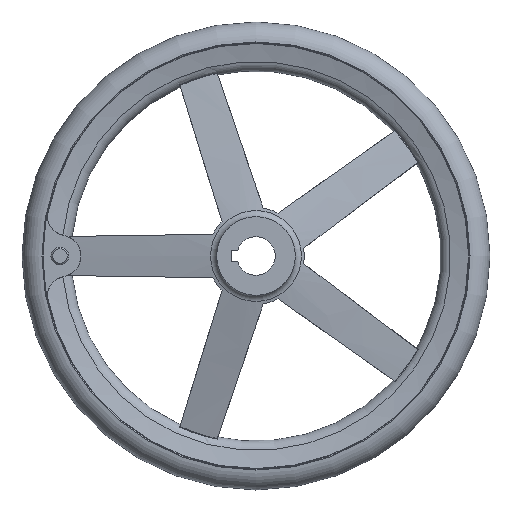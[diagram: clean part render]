
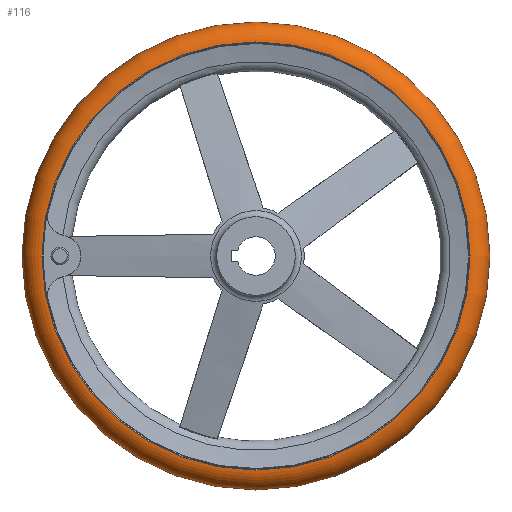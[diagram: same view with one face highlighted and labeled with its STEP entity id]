
A CAD part, left-side view. The second image highlights one B-rep face of the part: STEP entity #116.
In plain terms, the highlighted toroidal (fillet/blend) face has major radius 143.487 mm and minor radius 14.013 mm.
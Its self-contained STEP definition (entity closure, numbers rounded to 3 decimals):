
#116 = ADVANCED_FACE( '', ( #244, #245, #246 ), #247, .T. );
#244 = FACE_BOUND( '', #438, .T. );
#245 = FACE_OUTER_BOUND( '', #439, .T. );
#246 = FACE_OUTER_BOUND( '', #440, .T. );
#247 = TOROIDAL_SURFACE( '', #441, 143.487, 14.013 );
#438 = VERTEX_LOOP( '', #853 );
#439 = EDGE_LOOP( '', ( #854 ) );
#440 = EDGE_LOOP( '', ( #855 ) );
#441 = AXIS2_PLACEMENT_3D( '', #856, #857, #858 );
#853 = VERTEX_POINT( '', #1184 );
#854 = ORIENTED_EDGE( '', *, *, #1185, .T. );
#855 = ORIENTED_EDGE( '', *, *, #1186, .F. );
#856 = CARTESIAN_POINT( '', ( 42., 0., 0. ) );
#857 = DIRECTION( '', ( 1., 0., 0. ) );
#858 = DIRECTION( '', ( 0., 1., 0. ) );
#1184 = CARTESIAN_POINT( '', ( 42., 157.5, 0. ) );
#1185 = EDGE_CURVE( '', #1466, #1466, #1467, .T. );
#1186 = EDGE_CURVE( '', #1468, #1468, #1469, .T. );
#1466 = VERTEX_POINT( '', #2413 );
#1467 = CIRCLE( '', #2414, 144.083 );
#1468 = VERTEX_POINT( '', #2415 );
#1469 = CIRCLE( '', #2416, 144.083 );
#2413 = CARTESIAN_POINT( '', ( 28., 144.083, 0. ) );
#2414 = AXIS2_PLACEMENT_3D( '', #2706, #2707, #2708 );
#2415 = CARTESIAN_POINT( '', ( 56., 144.083, 0. ) );
#2416 = AXIS2_PLACEMENT_3D( '', #2709, #2710, #2711 );
#2706 = CARTESIAN_POINT( '', ( 28., 0., 0. ) );
#2707 = DIRECTION( '', ( 1., 0., 0. ) );
#2708 = DIRECTION( '', ( 0., 1., 0. ) );
#2709 = CARTESIAN_POINT( '', ( 56., 0., 0. ) );
#2710 = DIRECTION( '', ( 1., 0., 0. ) );
#2711 = DIRECTION( '', ( 0., 1., 0. ) );
